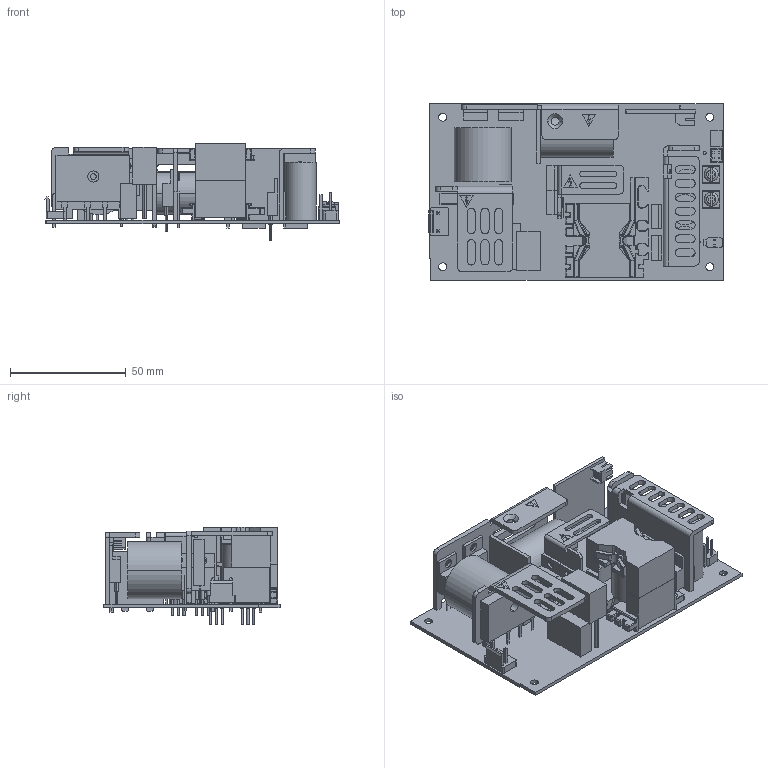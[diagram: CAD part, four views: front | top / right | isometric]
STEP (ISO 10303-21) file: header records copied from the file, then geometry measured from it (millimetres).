
FILE_DESCRIPTION(('Creo Elements/Direct Modeling STEP Export'),'2;1');
FILE_NAME('EPP-400.stp','2023-08-09T13:09:22',(''),(''),'PTC Creo Elements/Direct Modeling STEP processor for AP214 (Solid Model)','PTC Creo Elements/Direct Modeling 19.0E 27-Jun-2016 (C) Parametric Technology GmbH','');
FILE_SCHEMA(('AUTOMOTIVE_DESIGN { 1 0 10303 214 1 1 1 1 }'));
Length unit declared in the file: millimetre
Products named in the file (50): CN1.PRT; CN3.PRT; 1_2_1_2_1.PRT; 1_2_1_2.PRT; P2_1.PRT; 1_2_1_1.PRT; P2.PRT; P1-461370.PRT; JS100107.ASM; 555_1_2_1.PRT; 555_1_1.PRT; 555_1_2.PRT; C5.PRT; PIN2-2_1.PRT; HS-SZ029.PRT; HS1.ASM; VR_1.PRT; JS1120R_1_1_PRT.PRT; P1_1_PRT.PRT; 8_2_PRT_4_1.PRT; JS1120R_1_ASM.ASM; A1_ASM.ASM; PIN_4_4.PRT; HS-SZ028.PRT; HS44.ASM; TO220_3__1_1.PRT; TO220_3__1.PRT; TO220_3_.PRT; BD1.PRT; JJ.PRT; HS027.PRT; PIN2-2.PRT; HS-3.ASM; HS035.PRT; HS-SZ2.ASM; X_X2_75355BB9_X0_.PRT; L1.PRT; 11_1.PRT; 11.PRT; T1.PRT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
Assembly tree (56 placements, depth 6):
  EPP-400.stp
    EPP-400_1.ASM
      EPP-PCB.ASM
        PCB-A.PRT
        PCB-B.PRT
        PCB-C.PRT
      _X2_96F64EF6_X0_.ASM
        R.PRT  x2
        P1-36970.PRT
        TF.ASM
          T1.PRT
          11.PRT
          11_1.PRT
        L1.PRT
        X_X2_75355BB9_X0_.PRT
        HS-SZ2.ASM
          PIN2-2.PRT
          HS035.PRT
        HS-3.ASM
          PIN2-2.PRT
          HS027.PRT
        JJ.PRT
        BD1.PRT
        TO220_3_.PRT  x4
        TO220_3__1.PRT
        TO220_3__1_1.PRT
        HS44.ASM
          HS-SZ028.PRT
          PIN_4_4.PRT
        A1_ASM.ASM
          JS1120R_1_ASM.ASM
            8_2_PRT_4_1.PRT  x2
            P1_1_PRT.PRT
          JS1120R_1_1_PRT.PRT
        VR_1.PRT
        HS1.ASM
          HS-SZ029.PRT
          PIN2-2_1.PRT
        C5.PRT
        555_1_2.PRT
        555_1_1.PRT
        555_1_2_1.PRT
        JS100107.ASM
          P1-461370.PRT
          P2.PRT  x2
          1_2_1_1.PRT
          P2_1.PRT
          1_2_1_2.PRT
          1_2_1_2_1.PRT
        CN3.PRT
        CN1.PRT
Bounding box: 127.28 x 76.2 x 42.4 mm (x, y, z)
Volume: 86863.9 mm3; surface area: 72502.4 mm2
Topology: 44 solids, 44 shells, 1720 faces, 4238 edges, 2601 vertices
Faces by surface type: plane 888, cylinder 606, torus 119, bspline 51, sphere 48, cone 6, revolution 2
Entity records: 55430 total; most frequent: CARTESIAN_POINT 17377, DIRECTION 7634, ORIENTED_EDGE 7608, EDGE_CURVE 3804, AXIS2_PLACEMENT_3D 2603, VECTOR 2426, LINE 2426, VERTEX_POINT 2365
